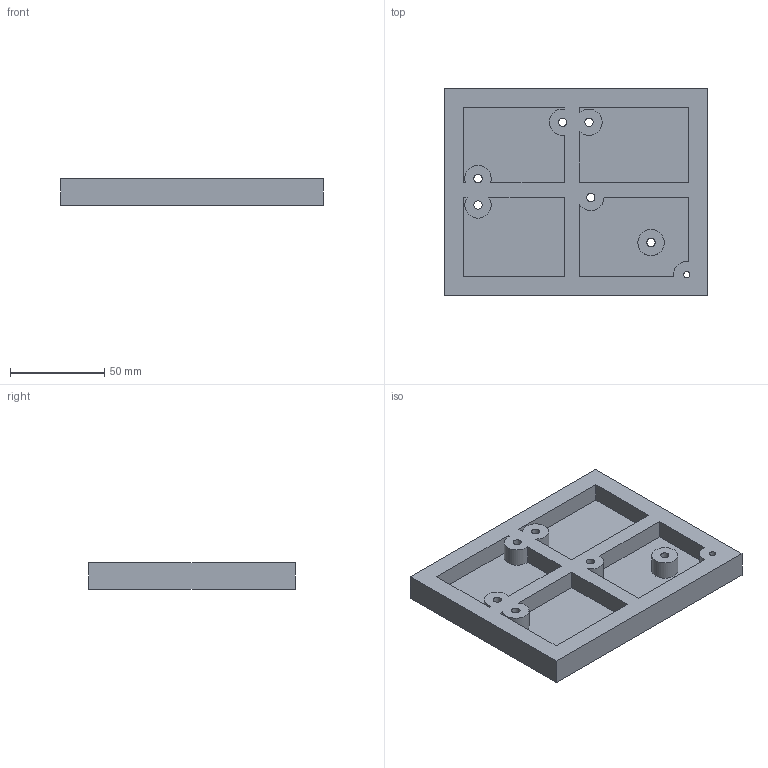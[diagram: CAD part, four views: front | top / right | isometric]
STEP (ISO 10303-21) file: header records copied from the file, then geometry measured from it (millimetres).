
FILE_DESCRIPTION(('Open CASCADE Model'),'2;1');
FILE_NAME('Open CASCADE Shape Model','2026-10-02T16:08:57',('Author'),( 'Open CASCADE'),'Open CASCADE STEP processor 7.8','Open CASCADE 7.8' ,'Unknown');
FILE_SCHEMA(('AUTOMOTIVE_DESIGN { 1 0 10303 214 1 1 1 1 }'));
Length unit declared in the file: millimetre
Products named in the file (1): Open CASCADE STEP translator 7.8 2
Bounding box: 139.8 x 109.8 x 14 mm (x, y, z)
Volume: 129519.9 mm3; surface area: 47621.4 mm2
Topology: 1 solids, 1 shells, 45 faces, 114 edges, 76 vertices
Faces by surface type: plane 31, cylinder 14
Full cylindrical faces by diameter (mm): 3.4 x1, 4.4 x6, 14 x1
Entity records: 2951 total; most frequent: CARTESIAN_POINT 614, DIRECTION 437, LINE 286, VECTOR 286, ORIENTED_EDGE 228, PCURVE 228, DEFINITIONAL_REPRESENTATION 228, EDGE_CURVE 114
